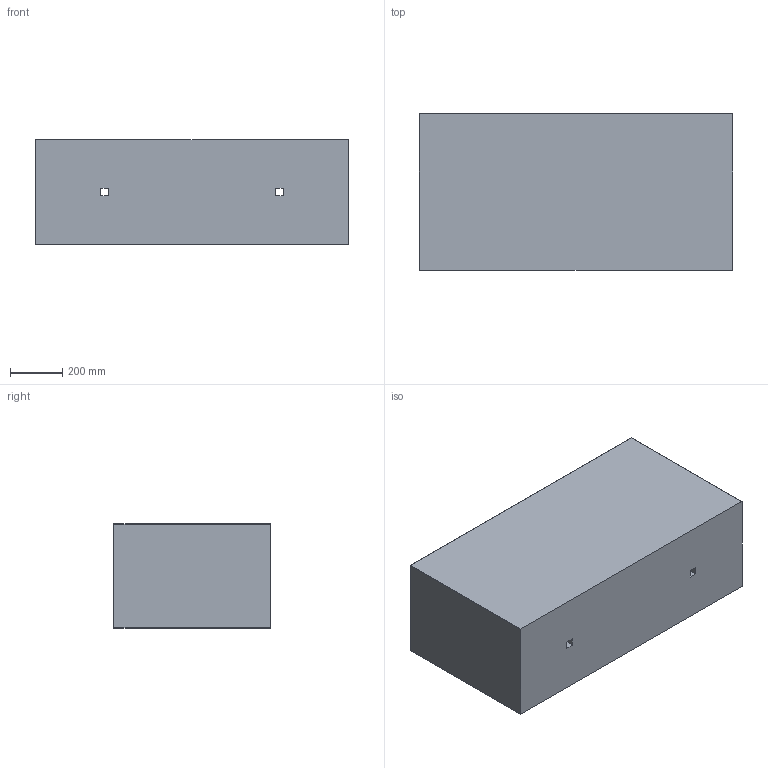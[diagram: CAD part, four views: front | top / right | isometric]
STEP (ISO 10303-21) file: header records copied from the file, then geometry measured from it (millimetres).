
FILE_DESCRIPTION(/* description */ (''),/* implementation_level */ '2;1');
FILE_NAME(/* name */ 'C:\Mac\Home\Desktop\btnv\inventor\basso1204060\donica betonowa Basso 120x40x60cm.stp',/* time_stamp */ '2025-11-10T21:59:39+01:00',/* author */ ('dwasik'),/* organization */ (''),/* preprocessor_version */ 'ST-DEVELOPER v15.6',/* originating_system */ 'Autodesk Inventor 2015',/* authorisation */ '');
FILE_SCHEMA (('AUTOMOTIVE_DESIGN { 1 0 10303 214 3 1 1 }'));
Length unit declared in the file: millimetre
Products named in the file (1): Part1
Bounding box: 1200 x 600 x 400 mm (x, y, z)
Volume: 87222798.9 mm3; surface area: 4496395 mm2
Topology: 1 solids, 1 shells, 31 faces, 72 edges, 44 vertices
Faces by surface type: plane 19, cylinder 8, sphere 4
Entity records: 898 total; most frequent: DIRECTION 152, CARTESIAN_POINT 148, ORIENTED_EDGE 144, EDGE_CURVE 72, LINE 56, VECTOR 56, AXIS2_PLACEMENT_3D 48, VERTEX_POINT 44
